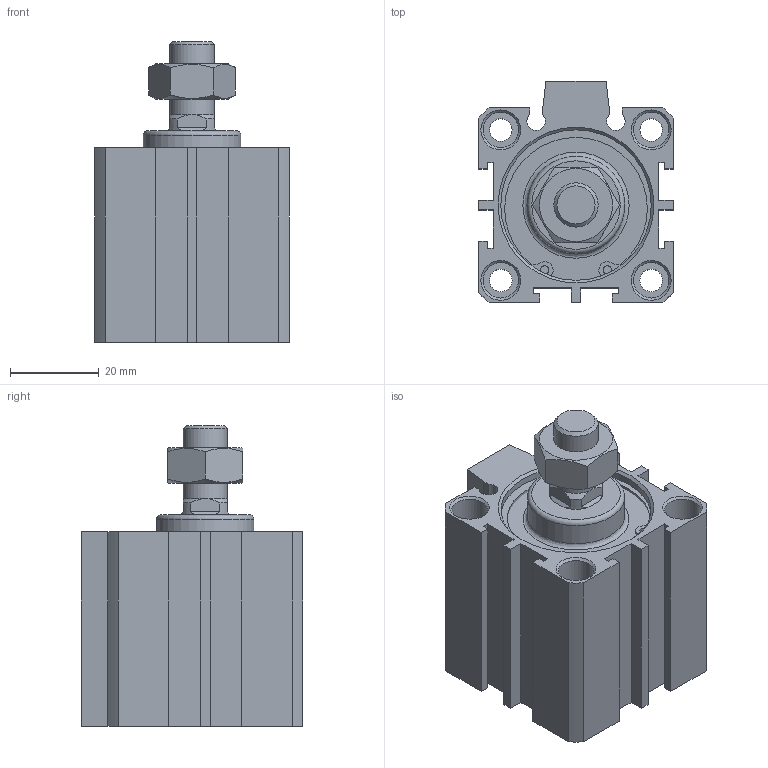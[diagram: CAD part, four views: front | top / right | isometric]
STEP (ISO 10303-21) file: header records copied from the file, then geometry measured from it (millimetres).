
FILE_DESCRIPTION((''),'2;1');
FILE_NAME('I:\3D電子目錄\氣缸\JD\JD-BS\JD32-BS\JD32\JD32x10-BS.stp','2007-08-06T08:47:35',('66-2f-008'),(''),'Autodesk Inventor 11','Autodesk Inventor 11','');
FILE_SCHEMA(('AUTOMOTIVE_DESIGN { 1 0 10303 214 1 1 1 1 }'));
Length unit declared in the file: millimetre
Products named in the file (3): JD32x10-BS; R 形環 35
Assembly tree (3 placements, depth 2):
  JD32x10-BS
    JD32x10-BS
    R 形環 35  x2
Bounding box: 44 x 50 x 68 mm (x, y, z)
Volume: 75393.9 mm3; surface area: 23226.3 mm2
Topology: 3 solids, 3 shells, 170 faces, 404 edges, 263 vertices
Faces by surface type: plane 95, cylinder 50, cone 21, bspline 2, torus 2
Full cylindrical faces by diameter (mm): 1.9 x4, 2.2 x2, 5.1 x4, 8 x8, 10 x2, 22 x1, 23 x1, 34 x4, 36 x2
Entity records: 4439 total; most frequent: CARTESIAN_POINT 852, DIRECTION 744, ORIENTED_EDGE 644, EDGE_CURVE 322, AXIS2_PLACEMENT_3D 280, EDGE_LOOP 240, VERTEX_POINT 238, VECTOR 184
